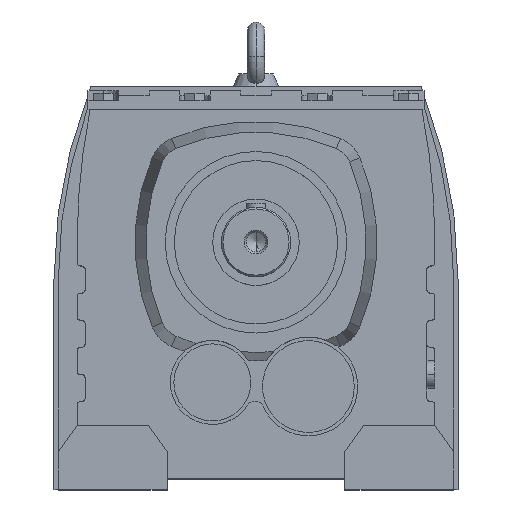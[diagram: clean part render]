
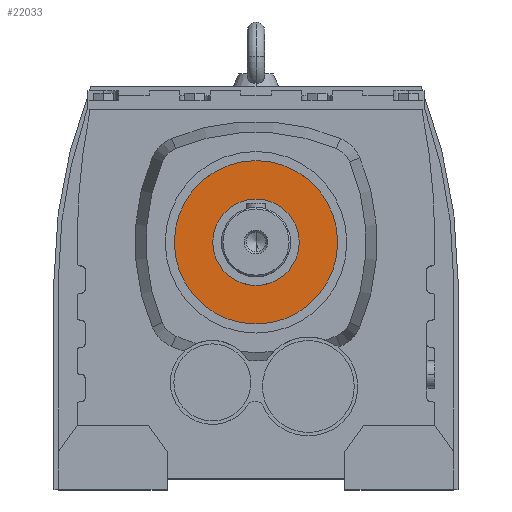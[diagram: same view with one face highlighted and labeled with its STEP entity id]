
A CAD part, top view. The second image highlights one B-rep face of the part: STEP entity #22033.
In plain terms, the highlighted planar face has unit normal (0, 0, 1).
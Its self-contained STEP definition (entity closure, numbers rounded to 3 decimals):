
#20132 = CYLINDRICAL_SURFACE('',#20133,82.688);
#20133 = AXIS2_PLACEMENT_3D('',#20134,#20135,#20136);
#20134 = CARTESIAN_POINT('',(0.,20.4,495.));
#20135 = DIRECTION('',(0.,0.,1.));
#20136 = DIRECTION('',(0.,-1.,0.));
#20162 = CYLINDRICAL_SURFACE('',#20163,82.688);
#20163 = AXIS2_PLACEMENT_3D('',#20164,#20165,#20166);
#20164 = CARTESIAN_POINT('',(0.,20.4,495.));
#20165 = DIRECTION('',(0.,0.,1.));
#20166 = DIRECTION('',(0.,-1.,0.));
#21162 = EDGE_CURVE('',#21163,#21165,#21167,.T.);
#21163 = VERTEX_POINT('',#21164);
#21164 = CARTESIAN_POINT('',(0.,-62.288,341.));
#21165 = VERTEX_POINT('',#21166);
#21166 = CARTESIAN_POINT('',(0.,103.088,341.));
#21167 = SURFACE_CURVE('',#21168,(#21173,#21179),.PCURVE_S1.);
#21168 = CIRCLE('',#21169,82.688);
#21169 = AXIS2_PLACEMENT_3D('',#21170,#21171,#21172);
#21170 = CARTESIAN_POINT('',(0.,20.4,341.));
#21171 = DIRECTION('',(0.,0.,-1.));
#21172 = DIRECTION('',(-1.,0.,0.));
#21173 = PCURVE('',#20162,#21174);
#21174 = DEFINITIONAL_REPRESENTATION('',(#21175),#21178);
#21175 = B_SPLINE_CURVE_WITH_KNOTS('',1,(#21176,#21177),.UNSPECIFIED.,
  .F.,.F.,(2,2),(4.712,7.854),
  .PIECEWISE_BEZIER_KNOTS.);
#21176 = CARTESIAN_POINT('',(6.283,-154.));
#21177 = CARTESIAN_POINT('',(3.142,-154.));
#21178 = ( GEOMETRIC_REPRESENTATION_CONTEXT(2) 
PARAMETRIC_REPRESENTATION_CONTEXT() REPRESENTATION_CONTEXT('2D SPACE',''
  ) );
#21179 = PCURVE('',#21180,#21185);
#21180 = PLANE('',#21181);
#21181 = AXIS2_PLACEMENT_3D('',#21182,#21183,#21184);
#21182 = CARTESIAN_POINT('',(-35.669,7.069,341.));
#21183 = DIRECTION('',(0.,0.,-1.));
#21184 = DIRECTION('',(-1.,0.,0.));
#21185 = DEFINITIONAL_REPRESENTATION('',(#21186),#21190);
#21186 = CIRCLE('',#21187,82.688);
#21187 = AXIS2_PLACEMENT_2D('',#21188,#21189);
#21188 = CARTESIAN_POINT('',(-35.669,13.331));
#21189 = DIRECTION('',(1.,0.));
#21190 = ( GEOMETRIC_REPRESENTATION_CONTEXT(2) 
PARAMETRIC_REPRESENTATION_CONTEXT() REPRESENTATION_CONTEXT('2D SPACE',''
  ) );
#21237 = EDGE_CURVE('',#21165,#21163,#21238,.T.);
#21238 = SURFACE_CURVE('',#21239,(#21244,#21250),.PCURVE_S1.);
#21239 = CIRCLE('',#21240,82.688);
#21240 = AXIS2_PLACEMENT_3D('',#21241,#21242,#21243);
#21241 = CARTESIAN_POINT('',(0.,20.4,341.));
#21242 = DIRECTION('',(0.,0.,-1.));
#21243 = DIRECTION('',(-1.,0.,0.));
#21244 = PCURVE('',#20132,#21245);
#21245 = DEFINITIONAL_REPRESENTATION('',(#21246),#21249);
#21246 = B_SPLINE_CURVE_WITH_KNOTS('',1,(#21247,#21248),.UNSPECIFIED.,
  .F.,.F.,(2,2),(1.571,4.712),
  .PIECEWISE_BEZIER_KNOTS.);
#21247 = CARTESIAN_POINT('',(3.142,-154.));
#21248 = CARTESIAN_POINT('',(0.,-154.));
#21249 = ( GEOMETRIC_REPRESENTATION_CONTEXT(2) 
PARAMETRIC_REPRESENTATION_CONTEXT() REPRESENTATION_CONTEXT('2D SPACE',''
  ) );
#21250 = PCURVE('',#21180,#21251);
#21251 = DEFINITIONAL_REPRESENTATION('',(#21252),#21256);
#21252 = CIRCLE('',#21253,82.688);
#21253 = AXIS2_PLACEMENT_2D('',#21254,#21255);
#21254 = CARTESIAN_POINT('',(-35.669,13.331));
#21255 = DIRECTION('',(1.,0.));
#21256 = ( GEOMETRIC_REPRESENTATION_CONTEXT(2) 
PARAMETRIC_REPRESENTATION_CONTEXT() REPRESENTATION_CONTEXT('2D SPACE',''
  ) );
#22033 = ADVANCED_FACE('',(#22034,#22038),#21180,.F.);
#22034 = FACE_BOUND('',#22035,.T.);
#22035 = EDGE_LOOP('',(#22036,#22037));
#22036 = ORIENTED_EDGE('',*,*,#21162,.F.);
#22037 = ORIENTED_EDGE('',*,*,#21237,.F.);
#22038 = FACE_BOUND('',#22039,.T.);
#22039 = EDGE_LOOP('',(#22040,#22074));
#22040 = ORIENTED_EDGE('',*,*,#22041,.F.);
#22041 = EDGE_CURVE('',#22042,#22044,#22046,.T.);
#22042 = VERTEX_POINT('',#22043);
#22043 = CARTESIAN_POINT('',(0.,-23.35,341.));
#22044 = VERTEX_POINT('',#22045);
#22045 = CARTESIAN_POINT('',(0.,64.15,341.));
#22046 = SURFACE_CURVE('',#22047,(#22052,#22063),.PCURVE_S1.);
#22047 = CIRCLE('',#22048,43.75);
#22048 = AXIS2_PLACEMENT_3D('',#22049,#22050,#22051);
#22049 = CARTESIAN_POINT('',(0.,20.4,341.));
#22050 = DIRECTION('',(0.,0.,1.));
#22051 = DIRECTION('',(-1.,0.,0.));
#22052 = PCURVE('',#21180,#22053);
#22053 = DEFINITIONAL_REPRESENTATION('',(#22054),#22062);
#22054 = ( BOUNDED_CURVE() B_SPLINE_CURVE(2,(#22055,#22056,#22057,#22058
    ,#22059,#22060,#22061),.UNSPECIFIED.,.F.,.F.) 
B_SPLINE_CURVE_WITH_KNOTS((1,2,2,2,2,1),(-2.094,0.,
    2.094,4.189,6.283,8.378),
.UNSPECIFIED.) CURVE() GEOMETRIC_REPRESENTATION_ITEM() 
RATIONAL_B_SPLINE_CURVE((1.,0.5,1.,0.5,1.,0.5,1.)) REPRESENTATION_ITEM(
  '') );
#22055 = CARTESIAN_POINT('',(8.081,13.331));
#22056 = CARTESIAN_POINT('',(8.081,-62.446));
#22057 = CARTESIAN_POINT('',(-57.544,-24.557));
#22058 = CARTESIAN_POINT('',(-123.169,13.331));
#22059 = CARTESIAN_POINT('',(-57.544,51.22));
#22060 = CARTESIAN_POINT('',(8.081,89.109));
#22061 = CARTESIAN_POINT('',(8.081,13.331));
#22062 = ( GEOMETRIC_REPRESENTATION_CONTEXT(2) 
PARAMETRIC_REPRESENTATION_CONTEXT() REPRESENTATION_CONTEXT('2D SPACE',''
  ) );
#22063 = PCURVE('',#22064,#22069);
#22064 = CYLINDRICAL_SURFACE('',#22065,43.75);
#22065 = AXIS2_PLACEMENT_3D('',#22066,#22067,#22068);
#22066 = CARTESIAN_POINT('',(0.,20.4,495.));
#22067 = DIRECTION('',(0.,0.,1.));
#22068 = DIRECTION('',(0.,-1.,0.));
#22069 = DEFINITIONAL_REPRESENTATION('',(#22070),#22073);
#22070 = B_SPLINE_CURVE_WITH_KNOTS('',1,(#22071,#22072),.UNSPECIFIED.,
  .F.,.F.,(2,2),(1.571,4.712),
  .PIECEWISE_BEZIER_KNOTS.);
#22071 = CARTESIAN_POINT('',(0.,-154.));
#22072 = CARTESIAN_POINT('',(3.142,-154.));
#22073 = ( GEOMETRIC_REPRESENTATION_CONTEXT(2) 
PARAMETRIC_REPRESENTATION_CONTEXT() REPRESENTATION_CONTEXT('2D SPACE',''
  ) );
#22074 = ORIENTED_EDGE('',*,*,#22075,.F.);
#22075 = EDGE_CURVE('',#22044,#22042,#22076,.T.);
#22076 = SURFACE_CURVE('',#22077,(#22082,#22093),.PCURVE_S1.);
#22077 = CIRCLE('',#22078,43.75);
#22078 = AXIS2_PLACEMENT_3D('',#22079,#22080,#22081);
#22079 = CARTESIAN_POINT('',(0.,20.4,341.));
#22080 = DIRECTION('',(0.,0.,1.));
#22081 = DIRECTION('',(-1.,0.,0.));
#22082 = PCURVE('',#21180,#22083);
#22083 = DEFINITIONAL_REPRESENTATION('',(#22084),#22092);
#22084 = ( BOUNDED_CURVE() B_SPLINE_CURVE(2,(#22085,#22086,#22087,#22088
    ,#22089,#22090,#22091),.UNSPECIFIED.,.F.,.F.) 
B_SPLINE_CURVE_WITH_KNOTS((1,2,2,2,2,1),(-2.094,0.,
    2.094,4.189,6.283,8.378),
.UNSPECIFIED.) CURVE() GEOMETRIC_REPRESENTATION_ITEM() 
RATIONAL_B_SPLINE_CURVE((1.,0.5,1.,0.5,1.,0.5,1.)) REPRESENTATION_ITEM(
  '') );
#22085 = CARTESIAN_POINT('',(8.081,13.331));
#22086 = CARTESIAN_POINT('',(8.081,-62.446));
#22087 = CARTESIAN_POINT('',(-57.544,-24.557));
#22088 = CARTESIAN_POINT('',(-123.169,13.331));
#22089 = CARTESIAN_POINT('',(-57.544,51.22));
#22090 = CARTESIAN_POINT('',(8.081,89.109));
#22091 = CARTESIAN_POINT('',(8.081,13.331));
#22092 = ( GEOMETRIC_REPRESENTATION_CONTEXT(2) 
PARAMETRIC_REPRESENTATION_CONTEXT() REPRESENTATION_CONTEXT('2D SPACE',''
  ) );
#22093 = PCURVE('',#22094,#22099);
#22094 = CYLINDRICAL_SURFACE('',#22095,43.75);
#22095 = AXIS2_PLACEMENT_3D('',#22096,#22097,#22098);
#22096 = CARTESIAN_POINT('',(0.,20.4,495.));
#22097 = DIRECTION('',(0.,0.,1.));
#22098 = DIRECTION('',(0.,-1.,0.));
#22099 = DEFINITIONAL_REPRESENTATION('',(#22100),#22103);
#22100 = B_SPLINE_CURVE_WITH_KNOTS('',1,(#22101,#22102),.UNSPECIFIED.,
  .F.,.F.,(2,2),(4.712,7.854),
  .PIECEWISE_BEZIER_KNOTS.);
#22101 = CARTESIAN_POINT('',(3.142,-154.));
#22102 = CARTESIAN_POINT('',(6.283,-154.));
#22103 = ( GEOMETRIC_REPRESENTATION_CONTEXT(2) 
PARAMETRIC_REPRESENTATION_CONTEXT() REPRESENTATION_CONTEXT('2D SPACE',''
  ) );
